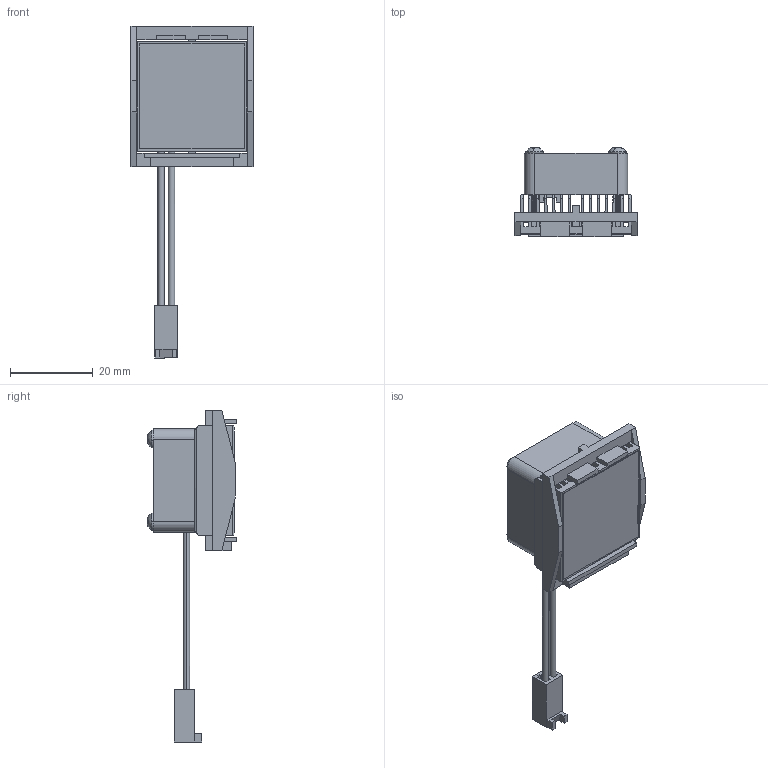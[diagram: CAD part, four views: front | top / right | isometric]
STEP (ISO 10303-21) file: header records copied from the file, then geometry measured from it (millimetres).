
FILE_DESCRIPTION (( 'STEP AP214' ), '1' );
FILE_NAME ('FJ27-1.7+O.STEP', '2023-03-21T23:45:07', ( '' ), ( '' ), 'SwSTEP 2.0', 'SolidWorks 2020', '' );
FILE_SCHEMA (( 'AUTOMOTIVE_DESIGN' ));
Length unit declared in the file: millimetre
Products named in the file (1): FJ27-1.7+O
Bounding box: 29.6 x 21.7 x 80.35 mm (x, y, z)
Volume: 7981.7 mm3; surface area: 15769.5 mm2
Topology: 8 solids, 8 shells, 855 faces, 2490 edges, 1656 vertices
Faces by surface type: cylinder 370, plane 307, bspline 122, cone 40, sphere 8, torus 8
Entity records: 63335 total; most frequent: CARTESIAN_POINT 34092, ORIENTED_EDGE 4980, DIRECTION 3297, EDGE_CURVE 2490, VERTEX_POINT 1656, VECTOR 1209, LINE 1209, AXIS2_PLACEMENT_3D 1044
